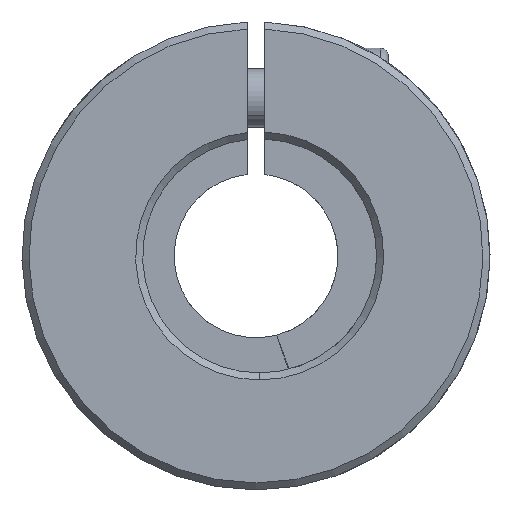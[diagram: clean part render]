
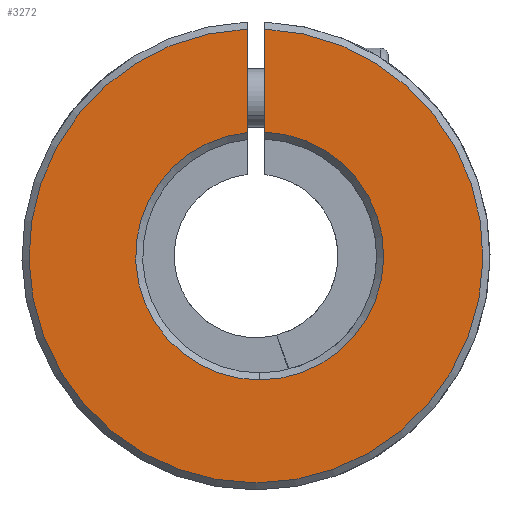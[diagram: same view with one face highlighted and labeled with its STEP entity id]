
A CAD part, front view. The second image highlights one B-rep face of the part: STEP entity #3272.
In plain terms, the highlighted planar face has unit normal (0, -1, 0).
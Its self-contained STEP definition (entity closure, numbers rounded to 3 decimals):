
#132 = ORIENTED_EDGE ( 'NONE', *, *, #3327, .T. ) ;
#210 = CARTESIAN_POINT ( 'NONE',  ( 0., -30., 0. ) ) ;
#426 = CARTESIAN_POINT ( 'NONE',  ( 0., -30., 0. ) ) ;
#500 = DIRECTION ( 'NONE',  ( 0., 0., 1. ) ) ;
#519 = VERTEX_POINT ( 'NONE', #5508 ) ;
#603 = DIRECTION ( 'NONE',  ( 0., 0., 1. ) ) ;
#694 = EDGE_CURVE ( 'NONE', #519, #4984, #2131, .T. ) ;
#850 = EDGE_LOOP ( 'NONE', ( #5077, #132, #1757, #1374, #2506 ) ) ;
#894 = CARTESIAN_POINT ( 'NONE',  ( 0.314, -30., 0. ) ) ;
#928 = CIRCLE ( 'NONE', #1323, 19.4 ) ;
#1043 = PLANE ( 'NONE',  #1449 ) ;
#1100 = CARTESIAN_POINT ( 'NONE',  ( 0.75, -30., 10.591 ) ) ;
#1228 = DIRECTION ( 'NONE',  ( 0., 0., -1. ) ) ;
#1270 = CIRCLE ( 'NONE', #3901, 10.6 ) ;
#1316 = DIRECTION ( 'NONE',  ( 0., 0., 1. ) ) ;
#1322 = EDGE_CURVE ( 'NONE', #1818, #4333, #2121, .T. ) ;
#1323 = AXIS2_PLACEMENT_3D ( 'NONE', #426, #4537, #5456 ) ;
#1374 = ORIENTED_EDGE ( 'NONE', *, *, #2562, .T. ) ;
#1418 = CARTESIAN_POINT ( 'NONE',  ( 0.314, -30., -10.6 ) ) ;
#1449 = AXIS2_PLACEMENT_3D ( 'NONE', #210, #4655, #603 ) ;
#1523 = CARTESIAN_POINT ( 'NONE',  ( 0.314, -30., 0. ) ) ;
#1534 = AXIS2_PLACEMENT_3D ( 'NONE', #894, #5351, #1316 ) ;
#1757 = ORIENTED_EDGE ( 'NONE', *, *, #1322, .T. ) ;
#1818 = VERTEX_POINT ( 'NONE', #1418 ) ;
#2048 = VECTOR ( 'NONE', #1228, 1000. ) ;
#2121 = CIRCLE ( 'NONE', #1534, 10.6 ) ;
#2131 = LINE ( 'NONE', #3914, #2048 ) ;
#2474 = DIRECTION ( 'NONE',  ( 0., 0., 1. ) ) ;
#2506 = ORIENTED_EDGE ( 'NONE', *, *, #4402, .T. ) ;
#2562 = EDGE_CURVE ( 'NONE', #4333, #3557, #5443, .T. ) ;
#3084 = CARTESIAN_POINT ( 'NONE',  ( -0.75, -30., 19.385 ) ) ;
#3247 = CARTESIAN_POINT ( 'NONE',  ( -0.75, -30., -6. ) ) ;
#3272 = ADVANCED_FACE ( 'NONE', ( #3724 ), #1043, .F. ) ;
#3327 = EDGE_CURVE ( 'NONE', #4984, #1818, #1270, .T. ) ;
#3557 = VERTEX_POINT ( 'NONE', #3084 ) ;
#3724 = FACE_OUTER_BOUND ( 'NONE', #850, .T. ) ;
#3901 = AXIS2_PLACEMENT_3D ( 'NONE', #1523, #5119, #2474 ) ;
#3914 = CARTESIAN_POINT ( 'NONE',  ( 0.75, -30., -6. ) ) ;
#4080 = VECTOR ( 'NONE', #500, 1000. ) ;
#4333 = VERTEX_POINT ( 'NONE', #5396 ) ;
#4402 = EDGE_CURVE ( 'NONE', #3557, #519, #928, .T. ) ;
#4537 = DIRECTION ( 'NONE',  ( 0., -1., 0. ) ) ;
#4655 = DIRECTION ( 'NONE',  ( 0., 1., 0. ) ) ;
#4984 = VERTEX_POINT ( 'NONE', #1100 ) ;
#5077 = ORIENTED_EDGE ( 'NONE', *, *, #694, .T. ) ;
#5119 = DIRECTION ( 'NONE',  ( 0., 1., 0. ) ) ;
#5351 = DIRECTION ( 'NONE',  ( 0., 1., 0. ) ) ;
#5396 = CARTESIAN_POINT ( 'NONE',  ( -0.75, -30., 10.546 ) ) ;
#5443 = LINE ( 'NONE', #3247, #4080 ) ;
#5456 = DIRECTION ( 'NONE',  ( 0., 0., 1. ) ) ;
#5508 = CARTESIAN_POINT ( 'NONE',  ( 0.75, -30., 19.385 ) ) ;
